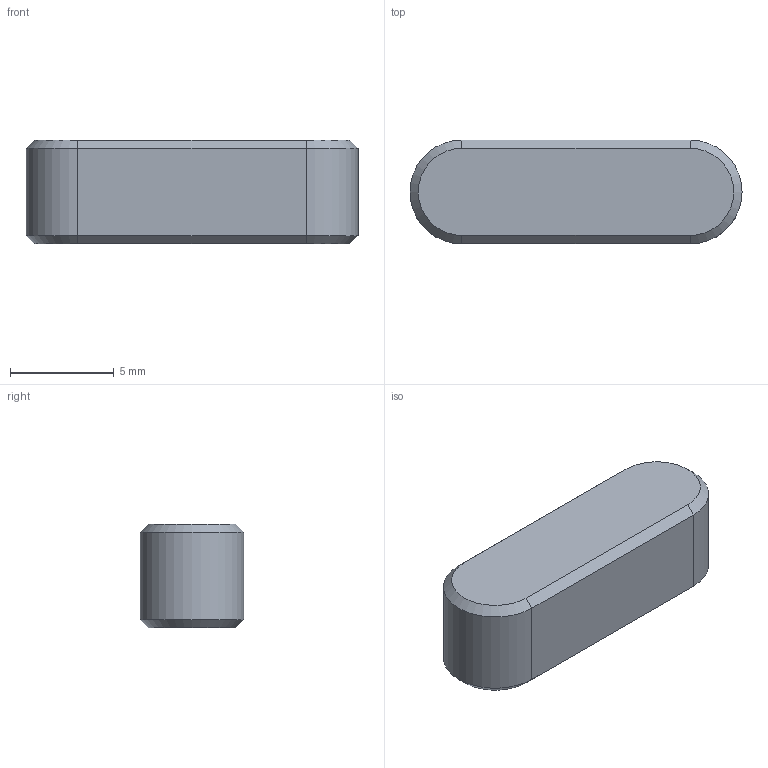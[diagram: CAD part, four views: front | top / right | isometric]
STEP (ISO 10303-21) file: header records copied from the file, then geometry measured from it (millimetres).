
FILE_DESCRIPTION(/* description */ ('키 및 해당 키홈'),/* implementation_level */ '2;1');
FILE_NAME(/* name */ '',/* time_stamp */ '2026-07-02T16:36:24+09:00',/* author */ ('jhkim'),/* organization */ (''),/* preprocessor_version */ 'ST-DEVELOPER v20.1',/* originating_system */ 'Autodesk Inventor 2027',/* authorisation */ '');
FILE_SCHEMA (('AUTOMOTIVE_DESIGN { 1 0 10303 214 3 1 1 }'));
Length unit declared in the file: millimetre
Products named in the file (1): 평행 키 5x5x16
Bounding box: 16 x 5 x 5 mm (x, y, z)
Volume: 367.3 mm3; surface area: 319.7 mm2
Topology: 1 solids, 1 shells, 14 faces, 28 edges, 16 vertices
Faces by surface type: plane 8, cone 4, cylinder 2
Entity records: 399 total; most frequent: DIRECTION 66, CARTESIAN_POINT 59, ORIENTED_EDGE 56, EDGE_CURVE 28, AXIS2_PLACEMENT_3D 23, LINE 20, VECTOR 20, VERTEX_POINT 16
